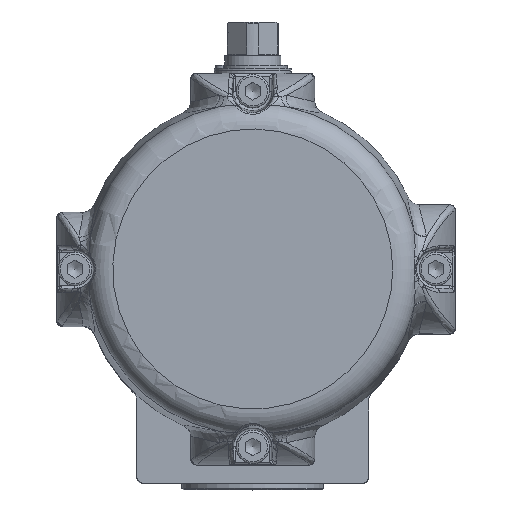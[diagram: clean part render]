
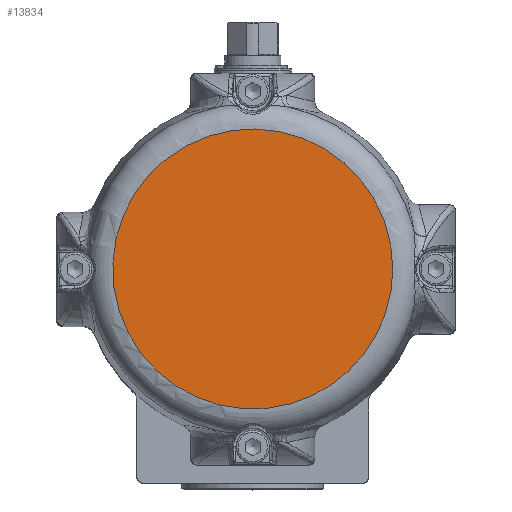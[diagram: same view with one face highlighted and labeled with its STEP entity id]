
A CAD part, top view. The second image highlights one B-rep face of the part: STEP entity #13834.
In plain terms, the highlighted planar face has unit normal (0, 0, 1).
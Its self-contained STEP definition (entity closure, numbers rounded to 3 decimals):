
#6312=CARTESIAN_POINT('',(54.308,0.,120.5));
#6313=VERTEX_POINT('',#6312);
#6314=CARTESIAN_POINT('',(0.,0.,120.5));
#6315=DIRECTION('',(0.0,0.0,-1.0));
#6316=DIRECTION('',(1.0,0.0,0.0));
#6317=AXIS2_PLACEMENT_3D('',#6314,#6315,#6316);
#6318=CIRCLE('',#6317,54.308);
#6319=EDGE_CURVE('',#6313,#6313,#6318,.T.);
#13826=CARTESIAN_POINT('',(27.154,0.,120.5));
#13827=DIRECTION('',(0.0,0.0,1.0));
#13828=DIRECTION('',(0.0,1.0,0.0));
#13829=AXIS2_PLACEMENT_3D('',#13826,#13827,#13828);
#13830=PLANE('',#13829);
#13831=ORIENTED_EDGE('',*,*,#6319,.F.);
#13832=EDGE_LOOP('',(#13831));
#13833=FACE_OUTER_BOUND('',#13832,.T.);
#13834=ADVANCED_FACE('',(#13833),#13830,.T.);
